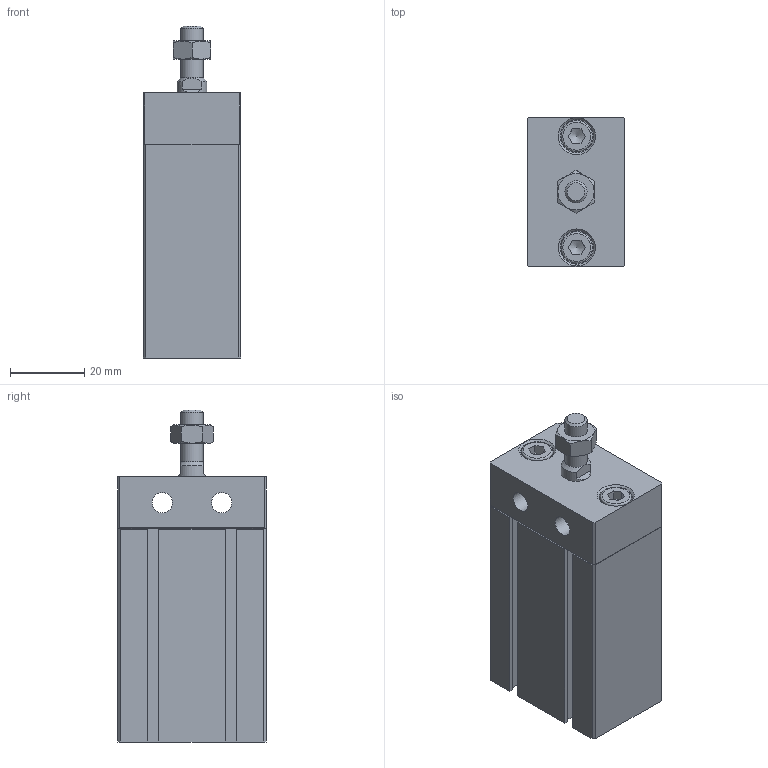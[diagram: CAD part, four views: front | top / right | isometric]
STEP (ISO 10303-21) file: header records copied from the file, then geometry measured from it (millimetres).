
FILE_DESCRIPTION((''),'2;1');
FILE_NAME('I:\3D電子目錄\氣缸\ND\ND\ND20-B\ND20x30-B.stp','2007-07-23T20:27:48',('Administrator'),(''),'Autodesk Inventor 11','Autodesk Inventor 11','');
FILE_SCHEMA(('AUTOMOTIVE_DESIGN { 1 0 10303 214 1 1 1 1 }'));
Length unit declared in the file: millimetre
Products named in the file (4): ND20-B; R 形環 22; ISO 4762 M5 x 12
Assembly tree (4 placements, depth 2):
  ND20-B
    ND20-B
    R 形環 22
    ISO 4762 M5 x 12  x2
Bounding box: 26.4 x 40.1 x 89.5 mm (x, y, z)
Volume: 68152.2 mm3; surface area: 18936.5 mm2
Topology: 5 solids, 5 shells, 170 faces, 420 edges, 269 vertices
Faces by surface type: plane 109, cylinder 28, cone 16, bspline 14, torus 3
Full cylindrical faces by diameter (mm): 1.5 x4, 5 x2, 5.5 x2, 6 x2, 8.5 x2, 9 x2, 13 x1, 21 x1
Entity records: 4613 total; most frequent: CARTESIAN_POINT 980, DIRECTION 710, ORIENTED_EDGE 692, EDGE_CURVE 346, VERTEX_POINT 244, VECTOR 238, LINE 238, AXIS2_PLACEMENT_3D 236
